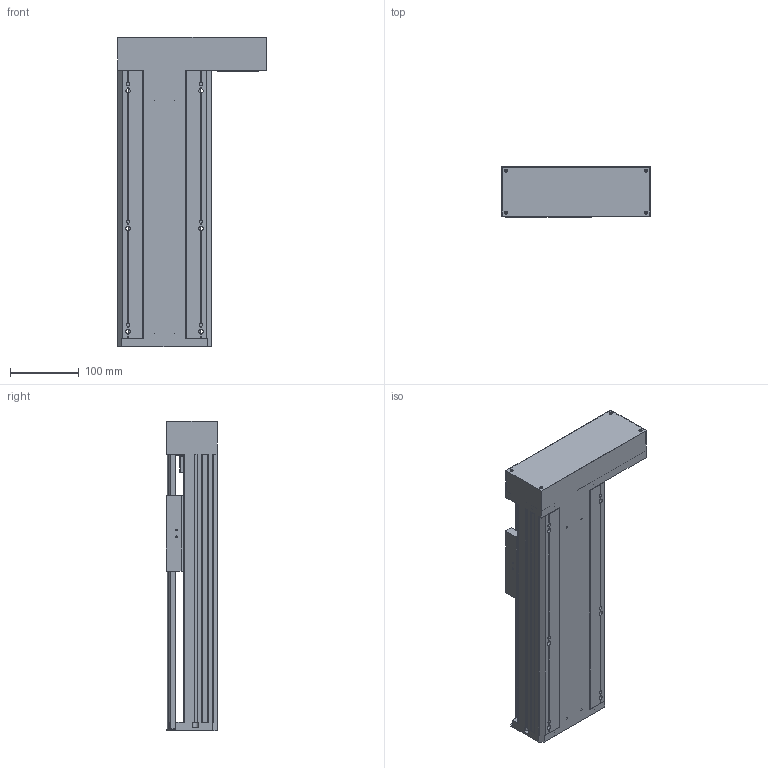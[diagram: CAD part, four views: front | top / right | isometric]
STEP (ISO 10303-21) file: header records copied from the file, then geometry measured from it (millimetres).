
FILE_DESCRIPTION(/* description */ (''),/* implementation_level */ '2;1');
FILE_NAME(/* name */ 'TKA136-FR-200_asm1.stp',/* time_stamp */ '2016-05-07T14:08:14+08:00',/* author */ (''),/* organization */ (''),/* preprocessor_version */ 'ST-DEVELOPER v15',/* originating_system */ 'SIEMENS PLM Software NX 8.5',/* authorisation */ '');
FILE_SCHEMA (('AUTOMOTIVE_DESIGN { 1 0 10303 214 3 1 1 1 }'));
Length unit declared in the file: millimetre
Products named in the file (3): 100-02; 100-01; TKA136-FR-200_asm1
Assembly tree (2 placements, depth 2):
  TKA136-FR-200_asm1
    100-01
    100-02
Bounding box: 216 x 75 x 450 mm (x, y, z)
Volume: 1645924.4 mm3; surface area: 642060.8 mm2
Topology: 2 solids, 12 shells, 849 faces, 2344 edges, 1533 vertices
Faces by surface type: plane 411, cylinder 385, cone 53
Full cylindrical faces by diameter (mm): 2.5 x4, 3 x2, 3.3 x15, 4 x4, 4.2 x14, 4.5 x26, 5 x10, 5.5 x26, 6.6 x10, 8 x20, 10 x9, 10.5 x6, 11 x4, 11.6 x1, 12 x9, 15 x3, 16 x5, 17 x1, 24 x5, 26 x1, 28 x1, 46 x2, 50 x1
Entity records: 27705 total; most frequent: CARTESIAN_POINT 7112, DIRECTION 4307, ORIENTED_EDGE 3946, EDGE_CURVE 1973, AXIS2_PLACEMENT_3D 1637, VERTEX_POINT 1419, EDGE_LOOP 1245, LINE 1033
